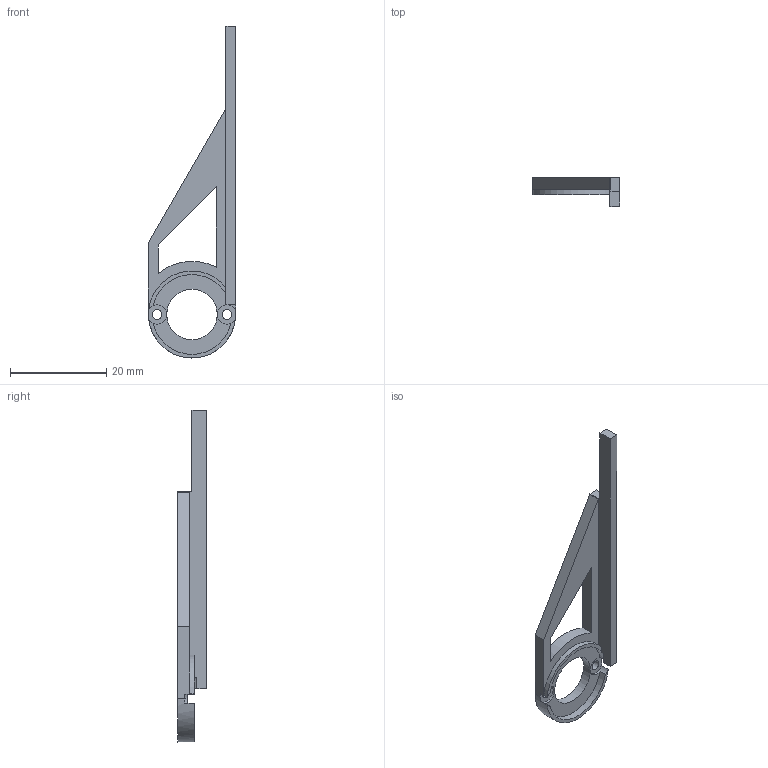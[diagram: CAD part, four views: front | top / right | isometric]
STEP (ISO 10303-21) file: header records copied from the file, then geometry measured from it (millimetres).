
FILE_DESCRIPTION(/* description */ (''),/* implementation_level */ '2;1');
FILE_NAME(/* name */ 'C:/Users/priba/Downloads/GripperJawB.step',/* time_stamp */ '2021-10-18T21:30:29+02:00',/* author */ (''),/* organization */ (''),/* preprocessor_version */ 'ST-DEVELOPER v18.1',/* originating_system */ 'Autodesk Translation Framework v10.10.0.1391',/* authorisation */ '');
FILE_SCHEMA (('AUTOMOTIVE_DESIGN { 1 0 10303 214 3 1 1 }'));
Length unit declared in the file: millimetre
Products named in the file (1): GripperJawB
Bounding box: 18.1 x 6 x 69.05 mm (x, y, z)
Volume: 1511.4 mm3; surface area: 2047.9 mm2
Topology: 1 solids, 1 shells, 37 faces, 104 edges, 67 vertices
Faces by surface type: plane 25, cylinder 12
Full cylindrical faces by diameter (mm): 2 x2, 10.5 x1
Entity records: 1254 total; most frequent: DIRECTION 215, ORIENTED_EDGE 210, CARTESIAN_POINT 210, EDGE_CURVE 105, AXIS2_PLACEMENT_3D 72, LINE 71, VECTOR 71, VERTEX_POINT 67
